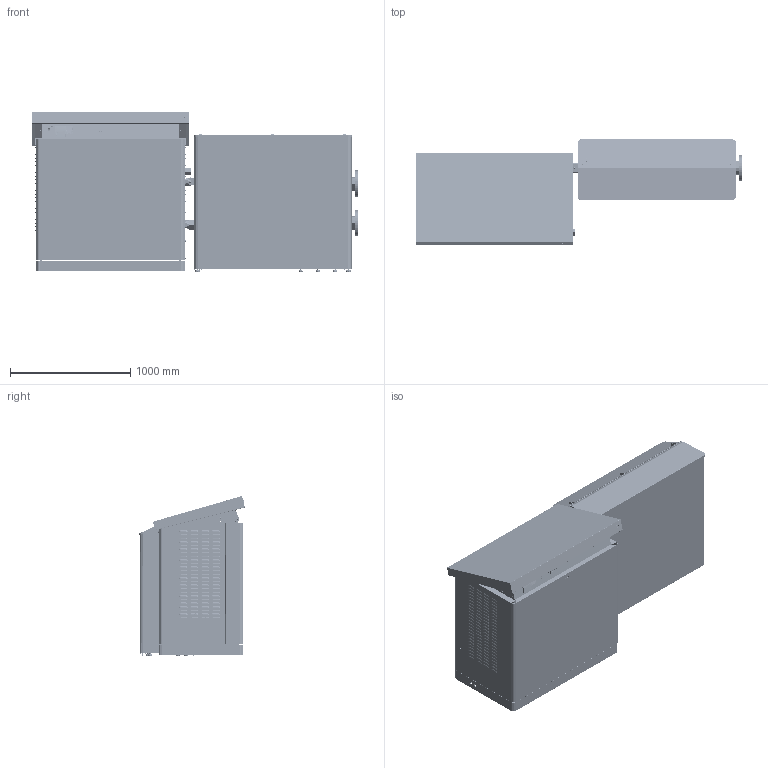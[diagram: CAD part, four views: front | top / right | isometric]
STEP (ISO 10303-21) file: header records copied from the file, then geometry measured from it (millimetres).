
FILE_DESCRIPTION( ( 'Unknown' ), '1' );
FILE_NAME( 'C:/Users/Gaboardi Damiano/Desktop/MODULEX 300 350 IGES + KIT/50010216 + 00361946 + 00362008.stp', 'Unknown', ( 'Unknown' ), ( 'Unknown' ), 'PSStep 17.0.49', 'Unknown', ' ' );
FILE_SCHEMA( ( 'AUTOMOTIVE_DESIGN { 1 0 10303 214 1 1 1 1 }' ) );
Length unit declared in the file: millimetre
Products named in the file (388): 00630157; MORSETTIERA_Y1; MORSETTIERA_Y2; MORSETTIERA_Y4_BCM; MORSETTIERA_Y3; 00282392-oa129; Saldatura d'angolo 10-oa127; Saldatura d'angolo 11-oa128; 39407; 00282435-oa131; VER0010; 88110094; 00310823; 00261109; 00262429; 00262522; 00262426; 00213327; inserto M3; 00213326; inserto_M5_uni 10447-A2; 00251605; 39419; Saldatura d'angolo 1-oa132; 39418; 00251635; 00251608; 00251636; Saldatura d'angolo 1-oa123; 00282623-oa122; Saldatura d'angolo 10-oa120; Saldatura d'angolo 11-oa121; 00213670; 00261005; 00213303; 00262926-oa102; 00262926-1-oa100; 00262926-2-oa101; 00262930-oa96; 00262930-1-oa92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
Assembly tree (769 placements, depth 7):
  Saldatura d'angolo 10-oa127
  Saldatura d'angolo 11-oa128
  Saldatura d'angolo 1-oa132
  Saldatura d'angolo 1-oa123
  Saldatura d'angolo 10-oa120
Bounding box: 2759.1 x 876.82 x 1328.16 mm (x, y, z)
Volume: 108526755.8 mm3; surface area: 43579384.2 mm2
Topology: 824 solids, 827 shells, 21161 faces, 55860 edges, 36418 vertices
Faces by surface type: plane 14271, cylinder 4085, sphere 768, extrusion 695, cone 633, bspline 425, torus 271, offset 9, revolution 4
Full cylindrical faces by diameter (mm): 0.4 x2, 1 x34, 1.5 x5, 2 x58, 2.459 x2, 2.5 x6, 2.9 x2, 3 x64, 3.2 x28, 3.242 x28, 3.5 x29, 3.7 x32, 3.8 x23, 3.9 x1, 4 x106, 4.134 x15, 4.2 x40, 4.3 x60, 4.368 x3, 4.5 x13, 4.8 x16, 4.917 x11, 5 x74, 5.2 x4, 5.3 x7, 5.5 x24, 5.689 x1, 6 x90, 6.2 x4, 6.4 x13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
Entity records: 550960 total; most frequent: CARTESIAN_POINT 135309, ORIENTED_EDGE 61892, DIRECTION 61764, EDGE_CURVE 30946, VERTEX_POINT 21119, AXIS2_PLACEMENT_3D 20684, VECTOR 20394, LINE 19699
